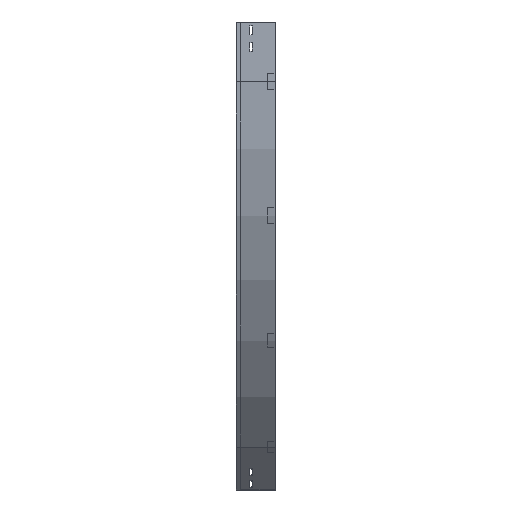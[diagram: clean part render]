
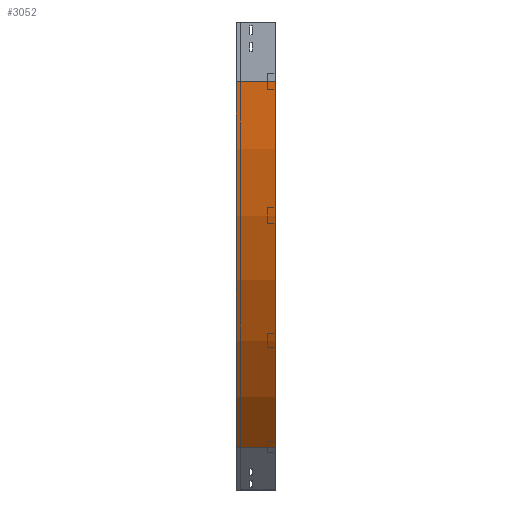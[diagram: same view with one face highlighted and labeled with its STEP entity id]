
A CAD part, left-side view. The second image highlights one B-rep face of the part: STEP entity #3052.
In plain terms, the highlighted cylindrical face has radius 1300 mm (diameter 2600 mm), a partial arc.
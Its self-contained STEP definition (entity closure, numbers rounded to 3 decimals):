
#11 = DIRECTION ( 'NONE',  ( 0., -1., 0. ) ) ;
#24 = VERTEX_POINT ( 'NONE', #2991 ) ;
#63 = VERTEX_POINT ( 'NONE', #3010 ) ;
#175 = DIRECTION ( 'NONE',  ( -1., 0., 0. ) ) ;
#279 = AXIS2_PLACEMENT_3D ( 'NONE', #757, #1614, #175 ) ;
#346 = ORIENTED_EDGE ( 'NONE', *, *, #3255, .F. ) ;
#366 = EDGE_CURVE ( 'NONE', #3585, #3061, #969, .T. ) ;
#397 = DIRECTION ( 'NONE',  ( 0., -1., 0. ) ) ;
#520 = ORIENTED_EDGE ( 'NONE', *, *, #1285, .T. ) ;
#607 = DIRECTION ( 'NONE',  ( -1., 0., 0. ) ) ;
#757 = CARTESIAN_POINT ( 'NONE',  ( 1300., 100., -150. ) ) ;
#791 = CYLINDRICAL_SURFACE ( 'NONE', #3563, 1300. ) ;
#969 = LINE ( 'NONE', #2777, #2437 ) ;
#1143 = CIRCLE ( 'NONE', #3333, 1300. ) ;
#1148 = CARTESIAN_POINT ( 'NONE',  ( 380.761, 100., -1069.239 ) ) ;
#1285 = EDGE_CURVE ( 'NONE', #63, #3585, #2078, .T. ) ;
#1439 = EDGE_LOOP ( 'NONE', ( #1763, #346, #520, #1527 ) ) ;
#1467 = EDGE_CURVE ( 'NONE', #24, #3061, #1143, .T. ) ;
#1527 = ORIENTED_EDGE ( 'NONE', *, *, #366, .T. ) ;
#1614 = DIRECTION ( 'NONE',  ( 0., -1., 0. ) ) ;
#1720 = FACE_OUTER_BOUND ( 'NONE', #1439, .T. ) ;
#1763 = ORIENTED_EDGE ( 'NONE', *, *, #1467, .F. ) ;
#1818 = CARTESIAN_POINT ( 'NONE',  ( 1300., 0., -150. ) ) ;
#1919 = LINE ( 'NONE', #3095, #3771 ) ;
#1981 = CARTESIAN_POINT ( 'NONE',  ( 1300., 0., -150. ) ) ;
#2032 = DIRECTION ( 'NONE',  ( 0., 0., -1. ) ) ;
#2078 = CIRCLE ( 'NONE', #279, 1300. ) ;
#2091 = CARTESIAN_POINT ( 'NONE',  ( 380.761, 0., -1069.239 ) ) ;
#2437 = VECTOR ( 'NONE', #397, 1000. ) ;
#2604 = DIRECTION ( 'NONE',  ( 0., -1., 0. ) ) ;
#2777 = CARTESIAN_POINT ( 'NONE',  ( 380.761, 0., -1069.239 ) ) ;
#2991 = CARTESIAN_POINT ( 'NONE',  ( 0., 0., -150. ) ) ;
#3010 = CARTESIAN_POINT ( 'NONE',  ( 0., 100., -150. ) ) ;
#3052 = ADVANCED_FACE ( 'NONE', ( #1720 ), #791, .T. ) ;
#3061 = VERTEX_POINT ( 'NONE', #2091 ) ;
#3095 = CARTESIAN_POINT ( 'NONE',  ( 0., 0., -150. ) ) ;
#3255 = EDGE_CURVE ( 'NONE', #63, #24, #1919, .T. ) ;
#3333 = AXIS2_PLACEMENT_3D ( 'NONE', #1818, #11, #607 ) ;
#3563 = AXIS2_PLACEMENT_3D ( 'NONE', #1981, #2604, #2032 ) ;
#3585 = VERTEX_POINT ( 'NONE', #1148 ) ;
#3713 = DIRECTION ( 'NONE',  ( 0., -1., 0. ) ) ;
#3771 = VECTOR ( 'NONE', #3713, 1000. ) ;
